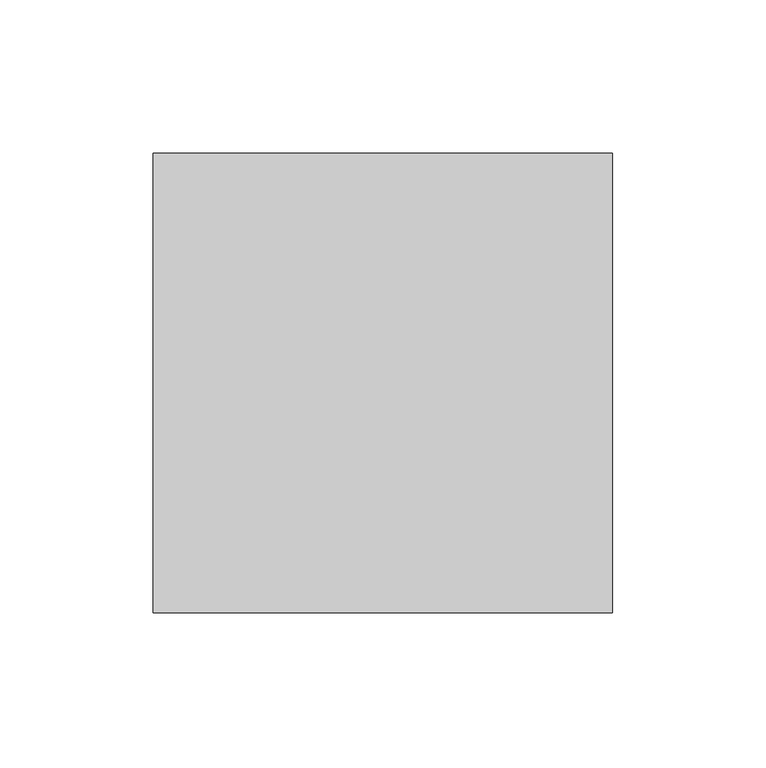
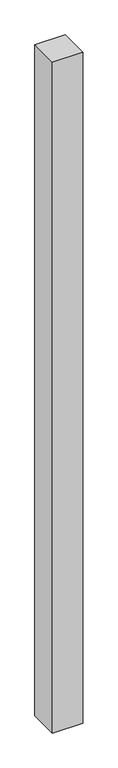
"""IFC4 building model written with IfcOpenShell, lengths in millimetres: proxy geometry, Брус : 150х150."""

import ifcopenshell
import ifcopenshell.guid

model = None  # the IFC model being written
_history = None  # IfcOwnerHistory: only IFC2X3 demands one
_inside = {}  # id of a spatial element -> (the spatial element, [elements in it])
_under = {}  # id of a project, library or spatial element -> (it, [spatial elements below it])
_declared = {}  # id of a project -> (the project, [libraries it declares])
_typed = {}  # id of a type object -> (the type object, [elements of that type])
_made_of = {}  # id of a material, layer set ... -> (it, [elements and type objects made of it])


def new_model(schema):
    """Start an empty IFC model of exactly this schema.

    Asked for "IFC4X3", IfcOpenShell would pick the latest addendum, in which some entities
    have other attributes; the version numbers below select the first issue.
    IFC2X3 requires an IfcOwnerHistory on every rooted entity: one is made here for all.
    """
    global model, _history
    if schema == "IFC4X3":
        model = ifcopenshell.file(schema_version=(4, 3, 0, 0))
    else:
        model = ifcopenshell.file(schema=schema)
    _inside.clear()
    _under.clear()
    _declared.clear()
    _typed.clear()
    _made_of.clear()
    _history = None
    if model.schema == "IFC2X3":
        org = make("IfcOrganization", Name="unknown")
        user = make(
            "IfcPersonAndOrganization",
            ThePerson=make("IfcPerson", FamilyName="unknown"),
            TheOrganization=org,
        )
        app = make(
            "IfcApplication",
            ApplicationDeveloper=org,
            Version="unknown",
            ApplicationFullName="unknown",
            ApplicationIdentifier="unknown",
        )
        _history = make(
            "IfcOwnerHistory",
            OwningUser=user,
            OwningApplication=app,
            ChangeAction="ADDED",
            CreationDate=0,
        )
    return model


def make(cls, **values):
    """One entity of the class cls with the attributes given. An attribute that is None is left unset."""
    return model.create_entity(
        cls, **{name: value for name, value in values.items() if value is not None}
    )


def rooted(cls, **values):
    """An entity with a GlobalId (a new one), such as an element, a storey or a relation."""
    return make(cls, GlobalId=ifcopenshell.guid.new(), OwnerHistory=_history, **values)


def si_unit(unit_type, name, prefix=None):
    """IfcSIUnit, for example si_unit("LENGTHUNIT", "METRE", prefix="MILLI")."""
    return make("IfcSIUnit", UnitType=unit_type, Prefix=prefix, Name=name)


def assignment(units):
    """IfcUnitAssignment: the units of a project."""
    return None if units is None else make("IfcUnitAssignment", Units=units)


def point(xyz):
    """IfcCartesianPoint."""
    return None if xyz is None else make("IfcCartesianPoint", Coordinates=xyz)


def direction(xyz):
    """IfcDirection."""
    return None if xyz is None else make("IfcDirection", DirectionRatios=xyz)


def frame(location, z_axis=None, x_axis=None):
    """IfcAxis2Placement3D, a coordinate frame: its origin and axes. An axis left out is left unset."""
    return make(
        "IfcAxis2Placement3D",
        Location=point(location),
        Axis=direction(z_axis),
        RefDirection=direction(x_axis),
    )


def origin():
    """The frame at (0, 0, 0) with its axes left unset."""
    return frame((0.0, 0.0, 0.0))


def origin_with_axes():
    """The frame at (0, 0, 0) with the z axis (0, 0, 1) and the x axis (1, 0, 0) written out."""
    return frame((0.0, 0.0, 0.0), z_axis=(0.0, 0.0, 1.0), x_axis=(1.0, 0.0, 0.0))


def place(relative_to, where):
    """IfcLocalPlacement: puts the frame where relative to a parent placement (None: the world)."""
    return make(
        "IfcLocalPlacement", PlacementRelTo=relative_to, RelativePlacement=where
    )


def context(
    kind, dimensions, precision=None, world=None, true_north=None, identifier=None
):
    """IfcGeometricRepresentationContext, for example the 3D "Model" context."""
    return make(
        "IfcGeometricRepresentationContext",
        ContextIdentifier=identifier,
        ContextType=kind,
        CoordinateSpaceDimension=dimensions,
        Precision=precision,
        WorldCoordinateSystem=world,
        TrueNorth=true_north,
    )


def project(units=None, contexts=None):
    """IfcProject with its units and contexts."""
    return rooted(
        "IfcProject",
        Name="project",
        RepresentationContexts=contexts,
        UnitsInContext=assignment(units),
    )


def spatial(cls, under=None, at=None, **own):
    """A site, building, storey or space (cls), placed at a placement, below another one or the project."""
    s = rooted(cls, ObjectPlacement=at, **own)
    if under is not None:
        _under.setdefault(under.id(), (under, []))[1].append(s)
    return s


def polyline(points):
    """IfcPolyline through the points."""
    return make("IfcPolyline", Points=[point(p) for p in points])


def outline(outer, holes=None, kind="AREA"):
    """IfcArbitraryClosedProfileDef: a profile drawn as a closed curve; with holes, ...WithVoids."""
    if holes is None:
        return make("IfcArbitraryClosedProfileDef", ProfileType=kind, OuterCurve=outer)
    return make(
        "IfcArbitraryProfileDefWithVoids",
        ProfileType=kind,
        OuterCurve=outer,
        InnerCurves=holes,
    )


def extrude(swept, where, along, depth):
    """IfcExtrudedAreaSolid: the profile swept, set in the frame where, extruded along a direction by depth."""
    return make(
        "IfcExtrudedAreaSolid",
        SweptArea=swept,
        Position=where,
        ExtrudedDirection=direction(along),
        Depth=depth,
    )


def shape(context_of_items, identifier, shape_type, items):
    """IfcShapeRepresentation: the items that make up one representation, for example the "Body"."""
    return make(
        "IfcShapeRepresentation",
        ContextOfItems=context_of_items,
        RepresentationIdentifier=identifier,
        RepresentationType=shape_type,
        Items=items,
    )


def source(mapping_origin, context_of_items, identifier, shape_type, items):
    """IfcRepresentationMap: a shape defined once, which mapped items show again and again."""
    return make(
        "IfcRepresentationMap",
        MappingOrigin=mapping_origin,
        MappedRepresentation=shape(context_of_items, identifier, shape_type, items),
    )


def transform(
    local_origin,
    x_axis=None,
    y_axis=None,
    z_axis=None,
    scale=None,
    scale2=None,
    scale3=None,
    uniform=True,
):
    """IfcCartesianTransformationOperator3D, or its non-uniform kind. x_axis, y_axis, z_axis: its Axis1, 2, 3."""
    if uniform:
        return make(
            "IfcCartesianTransformationOperator3D",
            Axis1=direction(x_axis),
            Axis2=direction(y_axis),
            LocalOrigin=point(local_origin),
            Scale=scale,
            Axis3=direction(z_axis),
        )
    return make(
        "IfcCartesianTransformationOperator3DnonUniform",
        Axis1=direction(x_axis),
        Axis2=direction(y_axis),
        LocalOrigin=point(local_origin),
        Scale=scale,
        Axis3=direction(z_axis),
        Scale2=scale2,
        Scale3=scale3,
    )


def mapped(mapping_source, mapping_target):
    """IfcMappedItem: shows the shape of a source again, moved by a transform."""
    return make(
        "IfcMappedItem", MappingSource=mapping_source, MappingTarget=mapping_target
    )


def made_of(thing, what):
    """Note that an element or type object is made of a material, layer set ...; save() writes the relation."""
    if what is not None:
        _made_of.setdefault(what.id(), (what, []))[1].append(thing)
    return thing


def element(
    cls,
    number,
    at=None,
    inside=None,
    cuts=None,
    type_object=None,
    material=None,
    context=None,
    identifier="Body",
    shape_type=None,
    held_by="IfcProductDefinitionShape",
    body=None,
    shapes=None,
    **own,
):
    """One element of the class cls, such as IfcWall. Its Tag is "e" and its number.

    at: its placement. inside: the storey or other place that contains it. cuts: it is an
    opening in that element (IfcRelVoidsElement). A single representation is given by context,
    identifier, shape_type and body (its items); several are given by shapes. held_by: the class
    of the entity that holds the representations. save() writes the other relations.
    """
    e = rooted(cls, Tag="e%d" % number, ObjectPlacement=at, **own)
    if body is not None:
        shapes = [shape(context, identifier, shape_type, body)]
    if shapes is not None:
        e.Representation = make(held_by, Representations=shapes)
    if inside is not None:
        _inside.setdefault(inside.id(), (inside, []))[1].append(e)
    if cuts is not None:
        rooted(
            "IfcRelVoidsElement", RelatingBuildingElement=cuts, RelatedOpeningElement=e
        )
    if type_object is not None:
        _typed.setdefault(type_object.id(), (type_object, []))[1].append(e)
    return made_of(e, material)


def aggregate(whole, parts):
    """IfcRelAggregates: a whole, such as a stair, and the parts it consists of."""
    return rooted("IfcRelAggregates", RelatingObject=whole, RelatedObjects=parts)


def save(model, path):
    """Write the relations noted so far, then the file.

    IfcRelAggregates (storeys below a building ...), IfcRelContainedInSpatialStructure (elements
    in a storey), IfcRelDefinesByType, IfcRelAssociatesMaterial and IfcRelDeclares: one each for
    every whole, place, type object, material and project.
    """
    for whole, parts in _under.values():
        aggregate(whole, parts)
    for where, things in _inside.values():
        rooted(
            "IfcRelContainedInSpatialStructure",
            RelatedElements=things,
            RelatingStructure=where,
        )
    for kind, things in _typed.values():
        rooted("IfcRelDefinesByType", RelatedObjects=things, RelatingType=kind)
    for what, things in _made_of.values():
        rooted("IfcRelAssociatesMaterial", RelatedObjects=things, RelatingMaterial=what)
    for by, libraries in _declared.values():
        rooted("IfcRelDeclares", RelatingContext=by, RelatedDefinitions=libraries)
    model.write(path)


def generic_models_91f2eda5(model_context):
    return source(origin(), model_context, "Body", "SweptSolid", [
        extrude(outline(polyline([(150.0, 0.0), (0.0, 0.0), (0.0, 150.0), (150.0, 150.0), (150.0, 0.0)])), origin_with_axes(), (0.0, 0.0, 1.0), 3500.0),
    ])


if __name__ == "__main__":
    model = new_model("IFC4")
    model_context = context("Model", 3, world=origin())
    ifc_project = project(units=[si_unit("LENGTHUNIT", "METRE", prefix="MILLI")], contexts=[model_context])
    site = spatial("IfcSite", under=ifc_project)
    building = spatial("IfcBuilding", under=site)
    placement = place(None, origin())
    generic_models_shape = generic_models_91f2eda5(model_context)
    element("IfcBuildingElementProxy", 1, Name="Брус : 150х150", ObjectType="Брус : 150х150", at=placement, inside=building, context=model_context, shape_type="MappedRepresentation", body=[
        mapped(generic_models_shape, transform((0.0, 0.0, 0.0), x_axis=(1.0, 0.0, 0.0), y_axis=(0.0, 1.0, 0.0), z_axis=(0.0, 0.0, 1.0))),
    ])
    save(model, "model.ifc")
